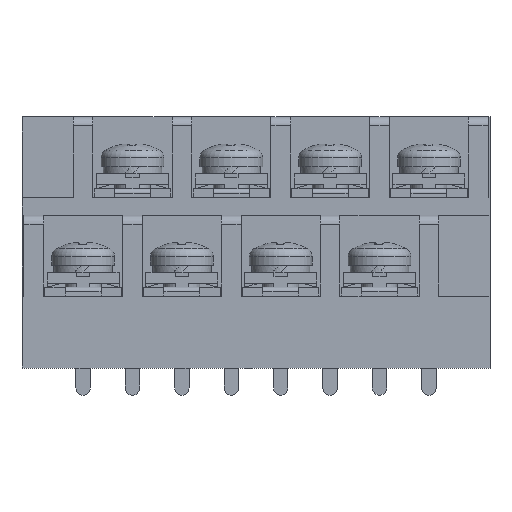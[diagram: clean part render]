
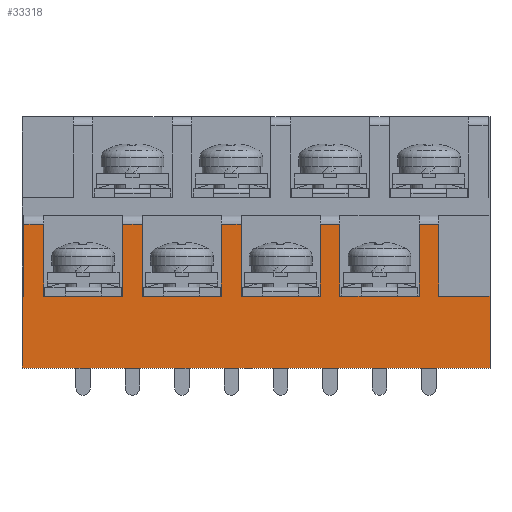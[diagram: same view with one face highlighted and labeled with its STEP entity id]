
A CAD part, top view. The second image highlights one B-rep face of the part: STEP entity #33318.
In plain terms, the highlighted planar face has unit normal (0, 0, 1).
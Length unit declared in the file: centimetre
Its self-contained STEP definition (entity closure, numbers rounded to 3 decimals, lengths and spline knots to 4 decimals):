
#1475=VECTOR('',#35046,1.);
#1531=VECTOR('',#35142,1.);
#1536=VECTOR('',#35154,1.);
#1538=VECTOR('',#35157,1.);
#1540=VECTOR('',#35160,1.);
#1942=VECTOR('',#35700,1.);
#2108=VECTOR('',#36055,1.);
#2272=VECTOR('',#36407,1.);
#2274=VECTOR('',#36413,1.);
#2276=VECTOR('',#36416,1.);
#2448=VECTOR('',#36781,1.);
#2610=VECTOR('',#37131,1.);
#2612=VECTOR('',#37137,1.);
#2625=VECTOR('',#37152,1.);
#2645=VECTOR('',#37185,1.);
#2648=VECTOR('',#37194,1.);
#2651=VECTOR('',#37198,1.);
#2806=VECTOR('',#37539,1.);
#2972=VECTOR('',#37899,1.);
#2973=VECTOR('',#37901,1.);
#2974=VECTOR('',#37902,1.);
#2975=VECTOR('',#37903,1.);
#2976=VECTOR('',#37904,1.);
#2977=VECTOR('',#37905,1.);
#5182=LINE('',#41329,#1475);
#5238=LINE('',#41462,#1531);
#5243=LINE('',#41477,#1536);
#5245=LINE('',#41480,#1538);
#5247=LINE('',#41485,#1540);
#5649=LINE('',#42987,#1942);
#5815=LINE('',#43475,#2108);
#5979=LINE('',#43962,#2272);
#5981=LINE('',#43968,#2274);
#5983=LINE('',#43973,#2276);
#6155=LINE('',#44477,#2448);
#6317=LINE('',#44959,#2610);
#6319=LINE('',#44965,#2612);
#6332=LINE('',#44991,#2625);
#6352=LINE('',#45033,#2645);
#6355=LINE('',#45043,#2648);
#6358=LINE('',#45048,#2651);
#6513=LINE('',#45514,#2806);
#6679=LINE('',#46004,#2972);
#6680=LINE('',#46006,#2973);
#6681=LINE('',#46007,#2974);
#6682=LINE('',#46008,#2975);
#6683=LINE('',#46010,#2976);
#6684=LINE('',#46012,#2977);
#9294=PLANE('',#54545);
#10506=VERTEX_POINT('',#41324);
#10508=VERTEX_POINT('',#41328);
#10552=VERTEX_POINT('',#41456);
#10555=VERTEX_POINT('',#41461);
#10558=VERTEX_POINT('',#41471);
#10561=VERTEX_POINT('',#41476);
#10562=VERTEX_POINT('',#41483);
#10905=VERTEX_POINT('',#42986);
#10906=VERTEX_POINT('',#42988);
#11058=VERTEX_POINT('',#43474);
#11213=VERTEX_POINT('',#43961);
#11215=VERTEX_POINT('',#43967);
#11216=VERTEX_POINT('',#43971);
#11375=VERTEX_POINT('',#44471);
#11378=VERTEX_POINT('',#44476);
#11530=VERTEX_POINT('',#44958);
#11532=VERTEX_POINT('',#44964);
#11543=VERTEX_POINT('',#44990);
#11557=VERTEX_POINT('',#45034);
#11559=VERTEX_POINT('',#45040);
#11561=VERTEX_POINT('',#45046);
#11857=VERTEX_POINT('',#46003);
#11858=VERTEX_POINT('',#46009);
#11859=VERTEX_POINT('',#46011);
#13982=EDGE_CURVE('',#10508,#10506,#5182,.T.);
#14050=EDGE_CURVE('',#10555,#10552,#5238,.T.);
#14057=EDGE_CURVE('',#10561,#10558,#5243,.T.);
#14059=EDGE_CURVE('',#10555,#10558,#5245,.T.);
#14061=EDGE_CURVE('',#10562,#10561,#5247,.T.);
#14570=EDGE_CURVE('',#10906,#10905,#5649,.T.);
#14804=EDGE_CURVE('',#11058,#10562,#5815,.T.);
#15037=EDGE_CURVE('',#11058,#11213,#5979,.T.);
#15040=EDGE_CURVE('',#11215,#11213,#5981,.T.);
#15042=EDGE_CURVE('',#11216,#11215,#5983,.T.);
#15283=EDGE_CURVE('',#11378,#11375,#6155,.T.);
#15514=EDGE_CURVE('',#11378,#11530,#6317,.T.);
#15517=EDGE_CURVE('',#11532,#11530,#6319,.T.);
#15530=EDGE_CURVE('',#10905,#11543,#6332,.T.);
#15552=EDGE_CURVE('',#11375,#11557,#6352,.T.);
#15557=EDGE_CURVE('',#11557,#11559,#6355,.T.);
#15560=EDGE_CURVE('',#11561,#11559,#6358,.T.);
#15783=EDGE_CURVE('',#11561,#11216,#6513,.T.);
#16018=EDGE_CURVE('',#10906,#11857,#6679,.T.);
#16019=EDGE_CURVE('',#11543,#10552,#6680,.T.);
#16020=EDGE_CURVE('',#10506,#11532,#6681,.T.);
#16021=EDGE_CURVE('',#10508,#11858,#6682,.T.);
#16022=EDGE_CURVE('',#11859,#11858,#6683,.T.);
#16023=EDGE_CURVE('',#11857,#11859,#6684,.T.);
#23341=ORIENTED_EDGE('',*,*,#15530,.T.);
#23342=ORIENTED_EDGE('',*,*,#16019,.T.);
#23343=ORIENTED_EDGE('',*,*,#14050,.F.);
#23344=ORIENTED_EDGE('',*,*,#14059,.T.);
#23345=ORIENTED_EDGE('',*,*,#14057,.F.);
#23346=ORIENTED_EDGE('',*,*,#14061,.F.);
#23347=ORIENTED_EDGE('',*,*,#14804,.F.);
#23348=ORIENTED_EDGE('',*,*,#15037,.T.);
#23349=ORIENTED_EDGE('',*,*,#15040,.F.);
#23350=ORIENTED_EDGE('',*,*,#15042,.F.);
#23351=ORIENTED_EDGE('',*,*,#15783,.F.);
#23352=ORIENTED_EDGE('',*,*,#15560,.T.);
#23353=ORIENTED_EDGE('',*,*,#15557,.F.);
#23354=ORIENTED_EDGE('',*,*,#15552,.F.);
#23355=ORIENTED_EDGE('',*,*,#15283,.F.);
#23356=ORIENTED_EDGE('',*,*,#15514,.T.);
#23357=ORIENTED_EDGE('',*,*,#15517,.F.);
#23358=ORIENTED_EDGE('',*,*,#16020,.F.);
#23359=ORIENTED_EDGE('',*,*,#13982,.F.);
#23360=ORIENTED_EDGE('',*,*,#16021,.T.);
#23361=ORIENTED_EDGE('',*,*,#16022,.F.);
#23362=ORIENTED_EDGE('',*,*,#16023,.F.);
#23363=ORIENTED_EDGE('',*,*,#16018,.F.);
#23364=ORIENTED_EDGE('',*,*,#14570,.T.);
#29348=EDGE_LOOP('',(#23341,#23342,#23343,#23344,#23345,#23346,#23347,#23348,
#23349,#23350,#23351,#23352,#23353,#23354,#23355,#23356,#23357,#23358,#23359,
#23360,#23361,#23362,#23363,#23364));
#31389=FACE_BOUND('',#29348,.T.);
#33318=ADVANCED_FACE('',(#31389),#9294,.T.);
#35046=DIRECTION('',(1.,0.,0.));
#35142=DIRECTION('',(1.,0.,0.));
#35154=DIRECTION('',(1.,0.,0.));
#35157=DIRECTION('',(0.,1.,0.));
#35160=DIRECTION('',(0.,1.,0.));
#35700=DIRECTION('',(0.,-1.,0.));
#36055=DIRECTION('',(1.,0.,0.));
#36407=DIRECTION('',(0.,1.,0.));
#36413=DIRECTION('',(1.,0.,0.));
#36416=DIRECTION('',(0.,1.,0.));
#36781=DIRECTION('',(1.,0.,0.));
#37131=DIRECTION('',(0.,1.,0.));
#37137=DIRECTION('',(1.,0.,0.));
#37152=DIRECTION('',(1.,0.,0.));
#37185=DIRECTION('',(0.,1.,0.));
#37194=DIRECTION('',(1.,0.,0.));
#37198=DIRECTION('',(0.,1.,0.));
#37539=DIRECTION('',(1.,0.,0.));
#37899=DIRECTION('',(1.,0.,0.));
#37900=DIRECTION('',(0.,0.,1.));
#37901=DIRECTION('',(0.,1.,0.));
#37902=DIRECTION('',(0.,1.,0.));
#37903=DIRECTION('',(0.,1.,0.));
#37904=DIRECTION('',(1.,0.,0.));
#37905=DIRECTION('',(0.,1.,0.));
#41324=CARTESIAN_POINT('',(-0.55,0.8,2.35));
#41328=CARTESIAN_POINT('',(-1.43,0.8,2.35));
#41329=CARTESIAN_POINT('',(-1.43,0.8,2.35));
#41456=CARTESIAN_POINT('',(3.54,0.8,2.35));
#41461=CARTESIAN_POINT('',(2.97,0.8,2.35));
#41462=CARTESIAN_POINT('',(2.97,0.8,2.35));
#41471=CARTESIAN_POINT('',(2.97,1.6,2.35));
#41476=CARTESIAN_POINT('',(2.75,1.6,2.35));
#41477=CARTESIAN_POINT('',(2.75,1.6,2.35));
#41480=CARTESIAN_POINT('',(2.97,0.,2.35));
#41483=CARTESIAN_POINT('',(2.75,0.8,2.35));
#41485=CARTESIAN_POINT('',(2.75,0.,2.35));
#42986=CARTESIAN_POINT('',(-1.67,0.,2.35));
#42987=CARTESIAN_POINT('',(-1.67,0.8,2.35));
#42988=CARTESIAN_POINT('',(-1.67,0.8,2.35));
#43474=CARTESIAN_POINT('',(1.87,0.8,2.35));
#43475=CARTESIAN_POINT('',(1.87,0.8,2.35));
#43961=CARTESIAN_POINT('',(1.87,1.6,2.35));
#43962=CARTESIAN_POINT('',(1.87,0.,2.35));
#43967=CARTESIAN_POINT('',(1.65,1.6,2.35));
#43968=CARTESIAN_POINT('',(1.65,1.6,2.35));
#43971=CARTESIAN_POINT('',(1.65,0.8,2.35));
#43973=CARTESIAN_POINT('',(1.65,0.,2.35));
#44471=CARTESIAN_POINT('',(0.55,0.8,2.35));
#44476=CARTESIAN_POINT('',(-0.33,0.8,2.35));
#44477=CARTESIAN_POINT('',(-0.33,0.8,2.35));
#44958=CARTESIAN_POINT('',(-0.33,1.6,2.35));
#44959=CARTESIAN_POINT('',(-0.33,0.,2.35));
#44964=CARTESIAN_POINT('',(-0.55,1.6,2.35));
#44965=CARTESIAN_POINT('',(-0.55,1.6,2.35));
#44990=CARTESIAN_POINT('',(3.54,0.,2.35));
#44991=CARTESIAN_POINT('',(-1.67,0.,2.35));
#45033=CARTESIAN_POINT('',(0.55,0.,2.35));
#45034=CARTESIAN_POINT('',(0.55,1.6,2.35));
#45040=CARTESIAN_POINT('',(0.77,1.6,2.35));
#45043=CARTESIAN_POINT('',(0.55,1.6,2.35));
#45046=CARTESIAN_POINT('',(0.77,0.8,2.35));
#45048=CARTESIAN_POINT('',(0.77,0.,2.35));
#45514=CARTESIAN_POINT('',(0.77,0.8,2.35));
#46003=CARTESIAN_POINT('',(-1.65,0.8,2.35));
#46004=CARTESIAN_POINT('',(-1.67,0.8,2.35));
#46005=CARTESIAN_POINT('',(-1.67,0.4,2.35));
#46006=CARTESIAN_POINT('',(3.54,0.8,2.35));
#46007=CARTESIAN_POINT('',(-0.55,0.,2.35));
#46008=CARTESIAN_POINT('',(-1.43,0.,2.35));
#46009=CARTESIAN_POINT('',(-1.43,1.6,2.35));
#46010=CARTESIAN_POINT('',(-1.65,1.6,2.35));
#46011=CARTESIAN_POINT('',(-1.65,1.6,2.35));
#46012=CARTESIAN_POINT('',(-1.65,0.,2.35));
#54545=AXIS2_PLACEMENT_3D('',#46005,#37900,$);
